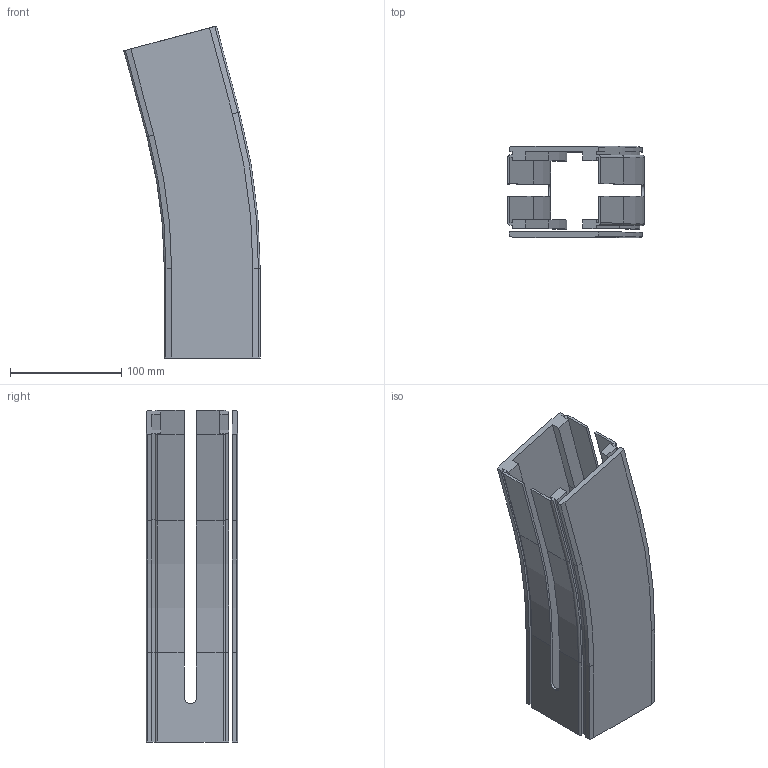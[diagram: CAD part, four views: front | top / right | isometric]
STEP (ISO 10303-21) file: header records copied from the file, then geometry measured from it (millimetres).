
FILE_DESCRIPTION((''),'2;1');
FILE_NAME('C:\Vault Klient\Projekt\Koncept konstruktion\Serie 530 Balk\530-5280.stp','2010-12-01T08:15:23',('Mathias'),(''),'Autodesk Inventor 2011','Autodesk Inventor 2011','');
FILE_SCHEMA(('AUTOMOTIVE_DESIGN { 1 0 10303 214 1 1 1 1 }'));
Length unit declared in the file: millimetre
Products named in the file (1): 530-5280
Bounding box: 122.28 x 82 x 297.81 mm (x, y, z)
Volume: 420627.6 mm3; surface area: 202927.1 mm2
Topology: 2 solids, 2 shells, 163 faces, 446 edges, 292 vertices
Faces by surface type: plane 103, cylinder 38, bspline 14, cone 4, torus 4
Entity records: 5298 total; most frequent: CARTESIAN_POINT 1096, ORIENTED_EDGE 892, DIRECTION 802, EDGE_CURVE 446, VECTOR 334, LINE 334, VERTEX_POINT 292, AXIS2_PLACEMENT_3D 234
